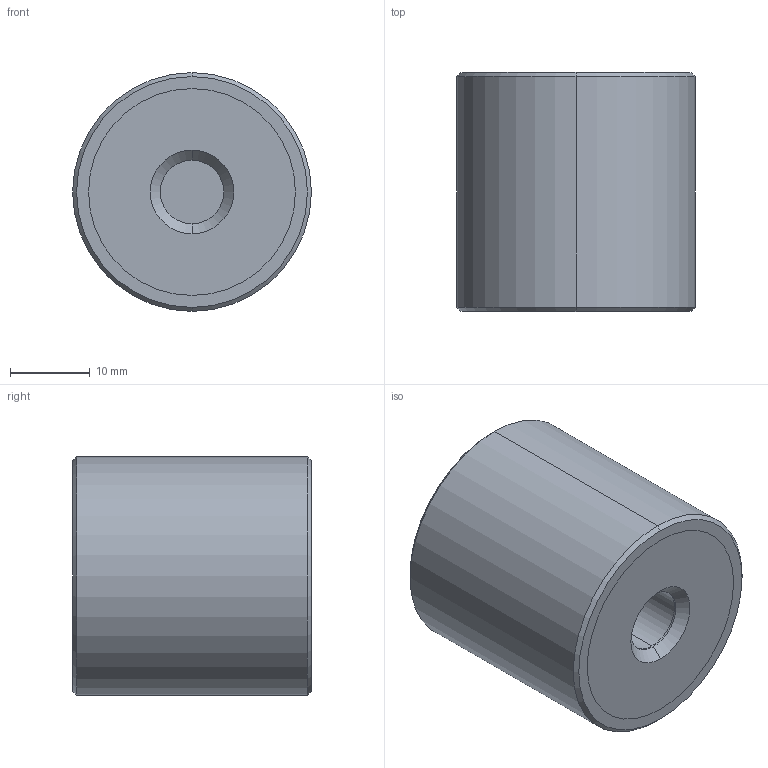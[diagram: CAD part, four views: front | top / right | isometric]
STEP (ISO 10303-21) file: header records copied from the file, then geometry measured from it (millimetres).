
FILE_DESCRIPTION (( 'STEP AP203' ), '1' );
FILE_NAME ('61080.W0303.step', '2018-07-16T20:44:07', ( '' ), ( '' ), 'SwSTEP 2.0', 'SolidWorks 2017', '' );
FILE_SCHEMA (( 'CONFIG_CONTROL_DESIGN' ));
Length unit declared in the file: millimetre
Products named in the file (4): Part3_61080.W0303; Part2_61080.W0303; Part1_61080.W0303; 61080.W0303
Assembly tree (3 placements, depth 2):
  61080.W0303
    Part1_61080.W0303
    Part2_61080.W0303
    Part3_61080.W0303
Bounding box: 30 x 30 x 30 mm (x, y, z)
Volume: 20334.8 mm3; surface area: 6967.4 mm2
Topology: 3 solids, 3 shells, 36 faces, 70 edges, 44 vertices
Faces by surface type: cylinder 18, plane 10, cone 8
Entity records: 1356 total; most frequent: DIRECTION 198, CARTESIAN_POINT 156, ORIENTED_EDGE 140, AXIS2_PLACEMENT_3D 86, EDGE_CURVE 70, VERTEX_POINT 44, EDGE_LOOP 44, CIRCLE 44
